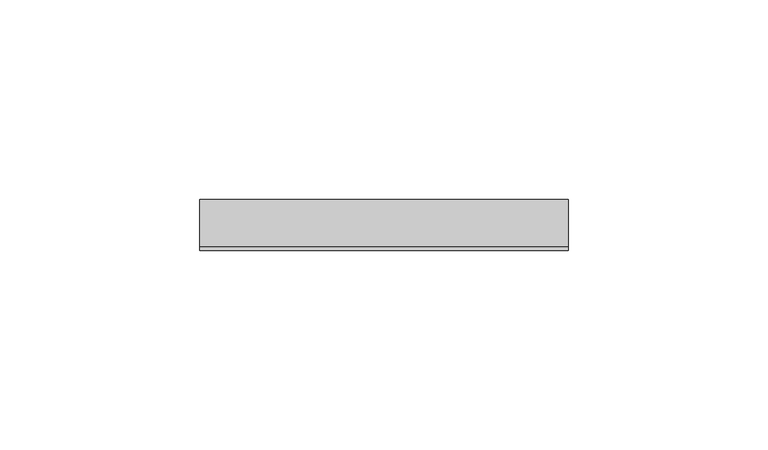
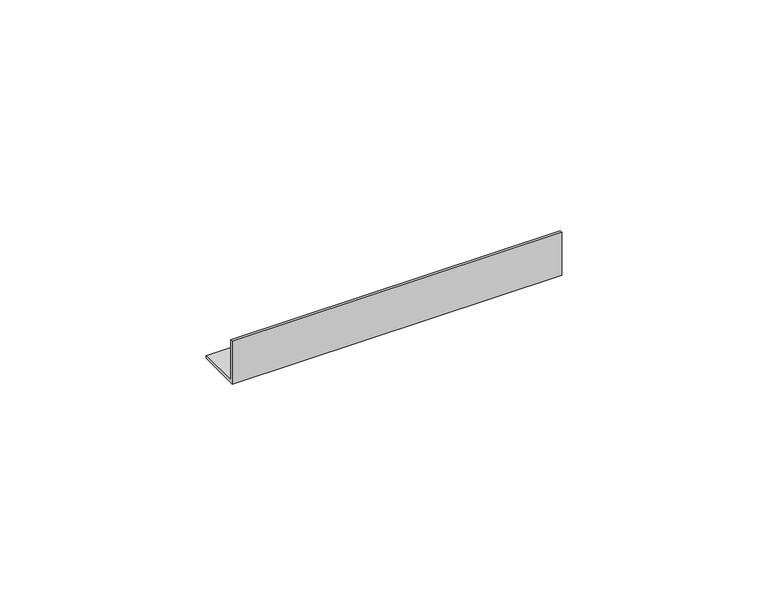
"""IFC4 building model written with IfcOpenShell, lengths in millimetres: proxy geometry, CRAi Generic Model Line Based Drip Deflector : CRAi Generic Model Line Based Drip Deflector."""

from ifc_helpers import new_model, si_unit, frame, origin, place, context, project, spatial, polyline, outline, extrude, source, transform, mapped, element, save


def generic_models_d28646c3(model_context):
    return source(origin(), model_context, "Body", "SweptSolid", [
        extrude(outline(polyline([(0.0, 0.0), (0.0, 12.7), (0.79375, 12.7), (0.79375, 0.79375), (12.7, 0.79375), (12.7, 0.0), (0.0, 0.0)])), frame((0.0, 0.0, 0.0), z_axis=(1.0, 0.0, 0.0), x_axis=(0.0, 1.0, 0.0)), (0.0, 0.0, 1.0), 92.1594826),
    ])


if __name__ == "__main__":
    model = new_model("IFC4")
    model_context = context("Model", 3, world=origin())
    ifc_project = project(units=[si_unit("LENGTHUNIT", "METRE", prefix="MILLI")], contexts=[model_context])
    site = spatial("IfcSite", under=ifc_project)
    building = spatial("IfcBuilding", under=site)
    placement = place(None, origin())
    generic_models_shape = generic_models_d28646c3(model_context)
    element("IfcBuildingElementProxy", 1, Name="CRAi Generic Model Line Based Drip Deflector : CRAi Generic Model Line Based Drip Deflector", ObjectType="CRAi Generic Model Line Based Drip Deflector : CRAi Generic Model Line Based Drip Deflector", at=placement, inside=building, context=model_context, shape_type="MappedRepresentation", body=[
        mapped(generic_models_shape, transform((0.0, 0.0, 0.0), x_axis=(1.0, 0.0, 0.0), y_axis=(0.0, 1.0, 0.0), z_axis=(0.0, 0.0, 1.0))),
    ])
    save(model, "model.ifc")
